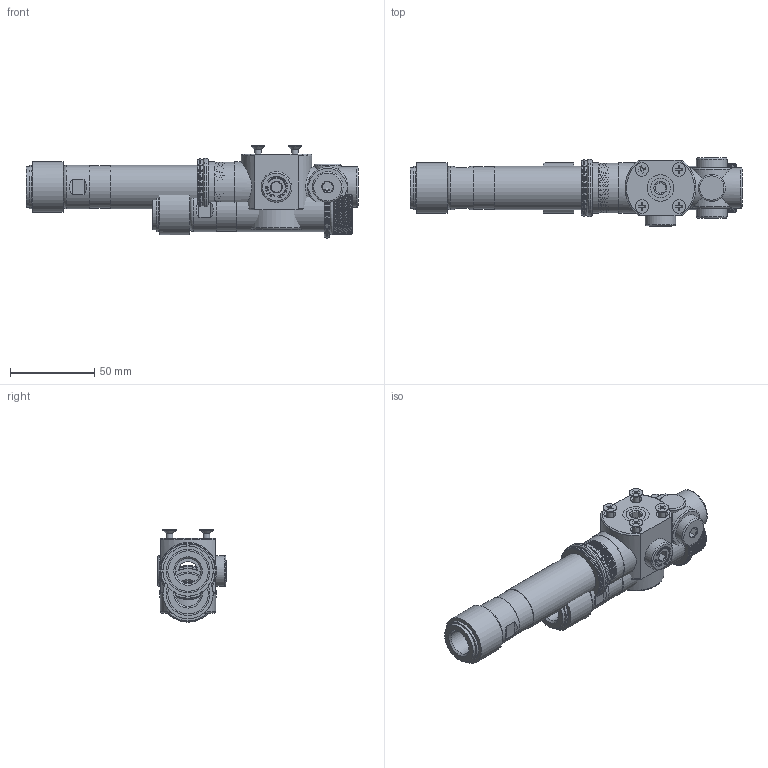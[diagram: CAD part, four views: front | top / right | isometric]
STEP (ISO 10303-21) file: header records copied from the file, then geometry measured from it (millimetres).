
FILE_DESCRIPTION( ( 'Unknown' ), '1' );
FILE_NAME( 'C:/Documents and Settings/Owner/官帕 拳搁/VSM 303P-12F-F.stp', 'Unknown', ( 'Unknown' ), ( 'Unknown' ), 'PSStep 10.0', 'Unknown', ' ' );
FILE_SCHEMA( ( 'AUTOMOTIVE_DESIGN { 1 0 10303 214 1 1 1 1 }' ) );
Length unit declared in the file: millimetre
Products named in the file (9): Assem1; 303P; speeder moudle_20130528_0; Plug14_New_PPS_0; VC303P; Plug14_New_PPS; 14M-End cap; FLAT M4x10L
Bounding box: 197.4 x 40.7 x 54.87 mm (x, y, z)
Surface area: 133828.6 mm2 (no closed solid volume)
Topology: 0 solids, 1145 shells, 1153 faces, 4859 edges, 4557 vertices
Faces by surface type: plane 613, cylinder 210, cone 121, torus 87, bspline 68, extrusion 54
Full cylindrical faces by diameter (mm): 4 x5, 4.917 x12, 8 x5, 11 x2, 11.445 x18, 11.835 x3, 14.95 x3, 15.4 x3, 15.8 x2, 16 x3, 16.5 x8, 17 x3, 18.2 x8, 18.631 x3, 22.835 x3, 24 x9, 25 x3, 25.2 x3, 25.3 x3, 25.9 x6, 26 x3, 27.867 x6, 29.6 x3, 30 x6, 32.834 x6, 33 x3, 33.747 x3, 34 x3
Entity records: 33051 total; most frequent: CARTESIAN_POINT 15543, DIRECTION 2667, ORIENTED_EDGE 1802, EDGE_CURVE 1802, VERTEX_POINT 1802, VECTOR 1091, LINE 1064, AXIS2_PLACEMENT_3D 788
